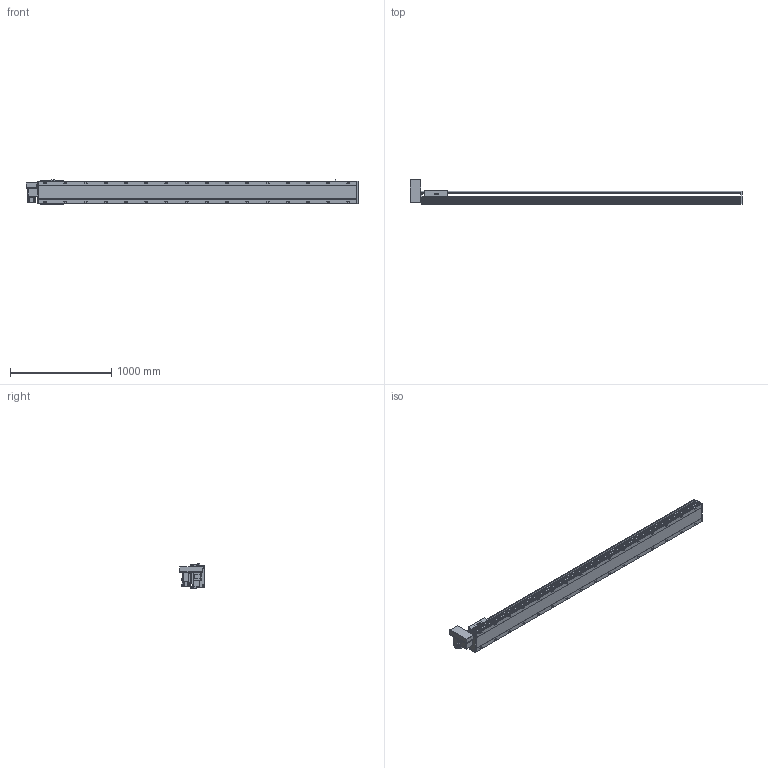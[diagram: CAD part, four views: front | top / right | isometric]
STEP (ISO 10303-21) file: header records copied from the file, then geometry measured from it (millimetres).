
FILE_DESCRIPTION(/* description */ ('STEP AP214'),/* implementation_level */ '2;1');
FILE_NAME(/* name */ 'PBS220-P40-S2800-RU-T75-C1-N(0)',/* time_stamp */ '2022-06-13T02:59:42+02:00',/* author */ ('License CC BY-ND 4.0'),/* organization */ ('CADENAS'),/* preprocessor_version */ 'ST-DEVELOPER v18.102',/* originating_system */ 'PARTsolutions',/* authorisation */ ' ');
FILE_SCHEMA (('AUTOMOTIVE_DESIGN {1 0 10303 214 3 1 1}'));
Length unit declared in the file: millimetre
Products named in the file (7): PBS220-P40-S2800-RU-T75-C1-N(0); PBS220_sensor; PBS220_plant; PBS220_sliser; T75-p1; PBS220T-RU_motors; PBS220-S2800()_body
Assembly tree (8 placements, depth 2):
  PBS220-P40-S2800-RU-T75-C1-N(0)
    PBS220_sensor  x3
    PBS220_plant
    PBS220_sliser
    T75-p1
    PBS220T-RU_motors
    PBS220-S2800()_body
Bounding box: 3284 x 247 x 238.5 mm (x, y, z)
Volume: 45702705.9 mm3; surface area: 4161959.2 mm2
Topology: 8 solids, 8 shells, 1010 faces, 2620 edges, 1702 vertices
Faces by surface type: plane 630, cylinder 324, cone 56
Full cylindrical faces by diameter (mm): 2.013 x4, 4.5 x14, 4.917 x4, 6 x7, 6.647 x8, 8 x10, 8.376 x32, 8.5 x32, 10 x6, 14 x32, 38 x2, 40 x1, 70 x1
Entity records: 28125 total; most frequent: CARTESIAN_POINT 5020, DIRECTION 4887, ORIENTED_EDGE 4394, EDGE_CURVE 2197, AXIS2_PLACEMENT_3D 1763, VERTEX_POINT 1544, LINE 1361, VECTOR 1361
